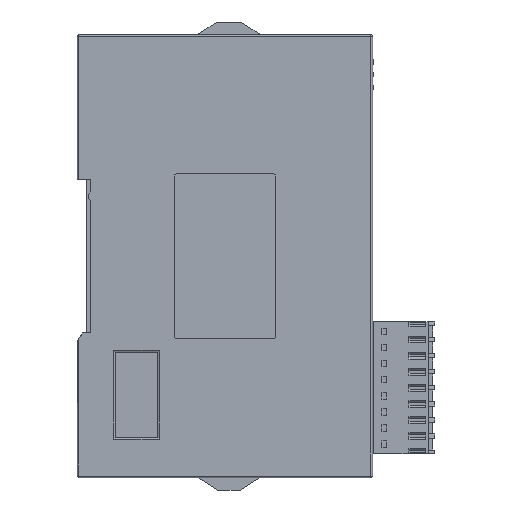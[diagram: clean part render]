
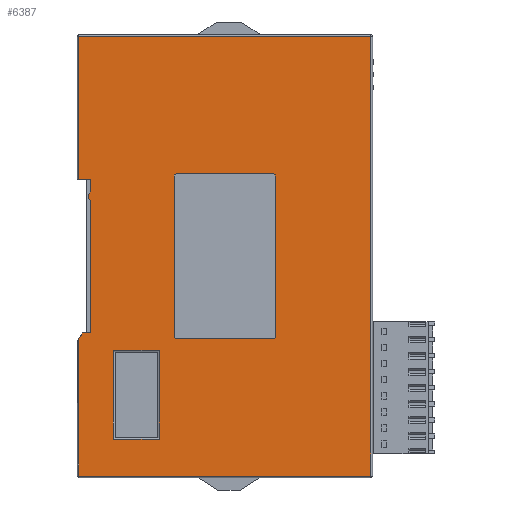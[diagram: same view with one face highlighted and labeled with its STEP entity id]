
A CAD part, left-side view. The second image highlights one B-rep face of the part: STEP entity #6387.
In plain terms, the highlighted planar face has unit normal (-1, 0, 0).
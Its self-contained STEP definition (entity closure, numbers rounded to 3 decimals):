
#6387=ADVANCED_FACE('',(#18540,#18542,#18544),#18546,.T.);
#18540=FACE_BOUND('',#18541,.T.);
#18541=EDGE_LOOP('',(#27260,#27261,#27262,#27263,#27264,#27265,#27266,#27267,#27268,
#27269,#27270));
#18542=FACE_BOUND('',#18543,.T.);
#18543=EDGE_LOOP('',(#27271,#27272,#27273,#27274,#27275,#27276,#27277,#27278));
#18544=FACE_BOUND('',#18545,.T.);
#18545=EDGE_LOOP('',(#27279,#27280,#27281,#27282));
#18546=PLANE('',#18547);
#18547=AXIS2_PLACEMENT_3D('',#18548,#18549,#18550);
#18548=CARTESIAN_POINT('',(-345.903,-44.348,173.566));
#18549=DIRECTION('',(-1.,0.,0.));
#18550=DIRECTION('',(0.,0.,1.));
#27260=ORIENTED_EDGE('',*,*,#33352,.F.);
#27261=ORIENTED_EDGE('',*,*,#33353,.F.);
#27262=ORIENTED_EDGE('',*,*,#33354,.T.);
#27263=ORIENTED_EDGE('',*,*,#33355,.T.);
#27264=ORIENTED_EDGE('',*,*,#33356,.T.);
#27265=ORIENTED_EDGE('',*,*,#33357,.T.);
#27266=ORIENTED_EDGE('',*,*,#33358,.T.);
#27267=ORIENTED_EDGE('',*,*,#33359,.F.);
#27268=ORIENTED_EDGE('',*,*,#33360,.F.);
#27269=ORIENTED_EDGE('',*,*,#33361,.F.);
#27270=ORIENTED_EDGE('',*,*,#32685,.F.);
#27271=ORIENTED_EDGE('',*,*,#33362,.F.);
#27272=ORIENTED_EDGE('',*,*,#33363,.F.);
#27273=ORIENTED_EDGE('',*,*,#33364,.F.);
#27274=ORIENTED_EDGE('',*,*,#33365,.F.);
#27275=ORIENTED_EDGE('',*,*,#33366,.F.);
#27276=ORIENTED_EDGE('',*,*,#33367,.F.);
#27277=ORIENTED_EDGE('',*,*,#33368,.F.);
#27278=ORIENTED_EDGE('',*,*,#33369,.F.);
#27279=ORIENTED_EDGE('',*,*,#33370,.F.);
#27280=ORIENTED_EDGE('',*,*,#33371,.F.);
#27281=ORIENTED_EDGE('',*,*,#33372,.F.);
#27282=ORIENTED_EDGE('',*,*,#33373,.F.);
#32685=EDGE_CURVE('',#38488,#38486,#38490,.T.);
#33352=EDGE_CURVE('',#39561,#38488,#39562,.T.);
#33353=EDGE_CURVE('',#39563,#39561,#39564,.T.);
#33354=EDGE_CURVE('',#39563,#39565,#39566,.T.);
#33355=EDGE_CURVE('',#39565,#39567,#39568,.T.);
#33356=EDGE_CURVE('',#39567,#39569,#39570,.T.);
#33357=EDGE_CURVE('',#39569,#39571,#39572,.T.);
#33358=EDGE_CURVE('',#39571,#39573,#39574,.T.);
#33359=EDGE_CURVE('',#39575,#39573,#39576,.T.);
#33360=EDGE_CURVE('',#39577,#39575,#39578,.T.);
#33361=EDGE_CURVE('',#38486,#39577,#39579,.T.);
#33362=EDGE_CURVE('',#39580,#39581,#39582,.T.);
#33363=EDGE_CURVE('',#39583,#39580,#39584,.T.);
#33364=EDGE_CURVE('',#39585,#39583,#39586,.T.);
#33365=EDGE_CURVE('',#39587,#39585,#39588,.T.);
#33366=EDGE_CURVE('',#39589,#39587,#39590,.T.);
#33367=EDGE_CURVE('',#39591,#39589,#39592,.T.);
#33368=EDGE_CURVE('',#39593,#39591,#39594,.T.);
#33369=EDGE_CURVE('',#39581,#39593,#39595,.T.);
#33370=EDGE_CURVE('',#39596,#39597,#39598,.T.);
#33371=EDGE_CURVE('',#39599,#39596,#39600,.T.);
#33372=EDGE_CURVE('',#39601,#39599,#39602,.T.);
#33373=EDGE_CURVE('',#39597,#39601,#39603,.T.);
#38486=VERTEX_POINT('',#50890);
#38488=VERTEX_POINT('',#50895);
#38490=LINE('',#50900,#50901);
#39561=VERTEX_POINT('',#55288);
#39562=LINE('',#55289,#55290);
#39563=VERTEX_POINT('',#55292);
#39564=LINE('',#55293,#55294);
#39565=VERTEX_POINT('',#55296);
#39566=LINE('',#55297,#55298);
#39567=VERTEX_POINT('',#55300);
#39568=LINE('',#55301,#55302);
#39569=VERTEX_POINT('',#55304);
#39570=CIRCLE('',#55305,2.);
#39571=VERTEX_POINT('',#55309);
#39572=LINE('',#55310,#55311);
#39573=VERTEX_POINT('',#55313);
#39574=LINE('',#55314,#55315);
#39575=VERTEX_POINT('',#55317);
#39576=LINE('',#55318,#55319);
#39577=VERTEX_POINT('',#55321);
#39578=LINE('',#55322,#55323);
#39579=LINE('',#55325,#55326);
#39580=VERTEX_POINT('',#55328);
#39581=VERTEX_POINT('',#55329);
#39582=LINE('',#55330,#55331);
#39583=VERTEX_POINT('',#55333);
#39584=CIRCLE('',#55334,0.5);
#39585=VERTEX_POINT('',#55338);
#39586=LINE('',#55339,#55340);
#39587=VERTEX_POINT('',#55342);
#39588=CIRCLE('',#55343,0.5);
#39589=VERTEX_POINT('',#55347);
#39590=LINE('',#55348,#55349);
#39591=VERTEX_POINT('',#55351);
#39592=CIRCLE('',#55352,0.5);
#39593=VERTEX_POINT('',#55356);
#39594=LINE('',#55357,#55358);
#39595=CIRCLE('',#55360,0.5);
#39596=VERTEX_POINT('',#55364);
#39597=VERTEX_POINT('',#55365);
#39598=LINE('',#55366,#55367);
#39599=VERTEX_POINT('',#55369);
#39600=LINE('',#55370,#55371);
#39601=VERTEX_POINT('',#55373);
#39602=LINE('',#55374,#55375);
#39603=LINE('',#55377,#55378);
#50890=CARTESIAN_POINT('',(-345.903,-120.48,183.998));
#50895=CARTESIAN_POINT('',(-345.903,-120.48,288.198));
#50900=CARTESIAN_POINT('',(-345.903,-120.48,288.198));
#50901=VECTOR('',#50902,1.);
#50902=DIRECTION('',(0.,0.,-1.));
#55288=CARTESIAN_POINT('',(-345.903,-51.28,288.198));
#55289=CARTESIAN_POINT('',(-345.903,-51.28,288.198));
#55290=VECTOR('',#55291,1.);
#55291=DIRECTION('',(0.,-1.,0.));
#55292=CARTESIAN_POINT('',(-345.903,-51.28,254.298));
#55293=CARTESIAN_POINT('',(-345.903,-51.28,254.298));
#55294=VECTOR('',#55295,1.);
#55295=DIRECTION('',(0.,0.,1.));
#55296=CARTESIAN_POINT('',(-345.903,-54.08,254.298));
#55297=CARTESIAN_POINT('',(-345.903,-51.28,254.298));
#55298=VECTOR('',#55299,1.);
#55299=DIRECTION('',(0.,-1.,0.));
#55300=CARTESIAN_POINT('',(-345.903,-54.08,251.62));
#55301=CARTESIAN_POINT('',(-345.903,-54.08,254.298));
#55302=VECTOR('',#55303,1.);
#55303=DIRECTION('',(0.,0.,-1.));
#55304=CARTESIAN_POINT('',(-345.903,-54.08,248.975));
#55305=AXIS2_PLACEMENT_3D('',#55306,#55307,#55308);
#55306=CARTESIAN_POINT('',(-345.903,-55.58,250.298));
#55307=DIRECTION('',(-1.,0.,0.));
#55308=DIRECTION('',(0.,0.75,0.661));
#55309=CARTESIAN_POINT('',(-345.903,-54.08,217.898));
#55310=CARTESIAN_POINT('',(-345.903,-54.08,248.975));
#55311=VECTOR('',#55312,1.);
#55312=DIRECTION('',(0.,0.,-1.));
#55313=CARTESIAN_POINT('',(-345.903,-52.08,217.898));
#55314=CARTESIAN_POINT('',(-345.903,-54.08,217.898));
#55315=VECTOR('',#55316,1.);
#55316=DIRECTION('',(0.,1.,0.));
#55317=CARTESIAN_POINT('',(-345.903,-51.28,216.564));
#55318=CARTESIAN_POINT('',(-345.903,-51.28,216.564));
#55319=VECTOR('',#55320,1.);
#55320=DIRECTION('',(0.,-0.515,0.857));
#55321=CARTESIAN_POINT('',(-345.903,-51.28,183.998));
#55322=CARTESIAN_POINT('',(-345.903,-51.28,183.998));
#55323=VECTOR('',#55324,1.);
#55324=DIRECTION('',(0.,0.,1.));
#55325=CARTESIAN_POINT('',(-345.903,-120.48,183.998));
#55326=VECTOR('',#55327,1.);
#55327=DIRECTION('',(0.,1.,0.));
#55328=CARTESIAN_POINT('',(-345.903,-97.38,255.598));
#55329=CARTESIAN_POINT('',(-345.903,-74.38,255.598));
#55330=CARTESIAN_POINT('',(-345.903,-97.38,255.598));
#55331=VECTOR('',#55332,1.);
#55332=DIRECTION('',(0.,1.,0.));
#55333=CARTESIAN_POINT('',(-345.903,-97.88,255.098));
#55334=AXIS2_PLACEMENT_3D('',#55335,#55336,#55337);
#55335=CARTESIAN_POINT('',(-345.903,-97.38,255.098));
#55336=DIRECTION('',(-1.,0.,0.));
#55337=DIRECTION('',(0.,-1.,0.));
#55338=CARTESIAN_POINT('',(-345.903,-97.88,217.098));
#55339=CARTESIAN_POINT('',(-345.903,-97.88,217.098));
#55340=VECTOR('',#55341,1.);
#55341=DIRECTION('',(0.,0.,1.));
#55342=CARTESIAN_POINT('',(-345.903,-97.38,216.598));
#55343=AXIS2_PLACEMENT_3D('',#55344,#55345,#55346);
#55344=CARTESIAN_POINT('',(-345.903,-97.38,217.098));
#55345=DIRECTION('',(-1.,0.,0.));
#55346=DIRECTION('',(0.,0.,-1.));
#55347=CARTESIAN_POINT('',(-345.903,-74.38,216.598));
#55348=CARTESIAN_POINT('',(-345.903,-74.38,216.598));
#55349=VECTOR('',#55350,1.);
#55350=DIRECTION('',(0.,-1.,0.));
#55351=CARTESIAN_POINT('',(-345.903,-73.88,217.098));
#55352=AXIS2_PLACEMENT_3D('',#55353,#55354,#55355);
#55353=CARTESIAN_POINT('',(-345.903,-74.38,217.098));
#55354=DIRECTION('',(-1.,0.,0.));
#55355=DIRECTION('',(0.,1.,0.));
#55356=CARTESIAN_POINT('',(-345.903,-73.88,255.098));
#55357=CARTESIAN_POINT('',(-345.903,-73.88,255.098));
#55358=VECTOR('',#55359,1.);
#55359=DIRECTION('',(0.,0.,-1.));
#55360=AXIS2_PLACEMENT_3D('',#55361,#55362,#55363);
#55361=CARTESIAN_POINT('',(-345.903,-74.38,255.098));
#55362=DIRECTION('',(-1.,0.,0.));
#55363=DIRECTION('',(0.,0.,1.));
#55364=CARTESIAN_POINT('',(-345.903,-70.34,192.748));
#55365=CARTESIAN_POINT('',(-345.903,-70.34,213.748));
#55366=CARTESIAN_POINT('',(-345.903,-70.34,192.748));
#55367=VECTOR('',#55368,1.);
#55368=DIRECTION('',(0.,0.,1.));
#55369=CARTESIAN_POINT('',(-345.903,-59.45,192.748));
#55370=CARTESIAN_POINT('',(-345.903,-59.45,192.748));
#55371=VECTOR('',#55372,1.);
#55372=DIRECTION('',(0.,-1.,0.));
#55373=CARTESIAN_POINT('',(-345.903,-59.45,213.748));
#55374=CARTESIAN_POINT('',(-345.903,-59.45,213.748));
#55375=VECTOR('',#55376,1.);
#55376=DIRECTION('',(0.,0.,-1.));
#55377=CARTESIAN_POINT('',(-345.903,-70.34,213.748));
#55378=VECTOR('',#55379,1.);
#55379=DIRECTION('',(0.,1.,0.));
